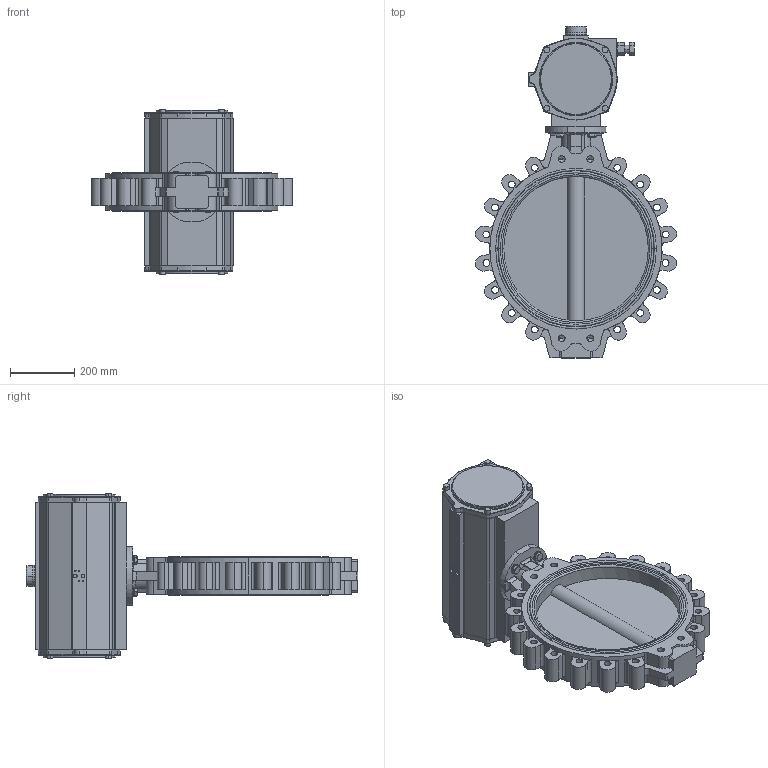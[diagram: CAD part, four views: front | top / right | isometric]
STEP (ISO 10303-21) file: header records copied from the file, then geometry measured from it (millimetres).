
FILE_DESCRIPTION (( 'STEP AP214' ), '1' );
FILE_NAME ('67720.step', '2020-10-26T07:28:24', ( '' ), ( '' ), 'SwSTEP 2.0', 'SolidWorks 2019', '' );
FILE_SCHEMA (( 'AUTOMOTIVE_DESIGN' ));
Length unit declared in the file: millimetre
Products named in the file (6): 67720; DA2100-V46_01; U-Scheibe DIN 125 A_M16; TL20-0450_M01; 6kt-Schr DIN 933_M16x45; Achtkantreduktion 46-36 mm
Assembly tree (11 placements, depth 2):
  67720
    TL20-0450_M01
    DA2100-V46_01
    6kt-Schr DIN 933_M16x45  x4
    U-Scheibe DIN 125 A_M16  x4
    Achtkantreduktion 46-36 mm
Bounding box: 625.8 x 1033 x 516 mm (x, y, z)
Volume: 47484017.6 mm3; surface area: 1949384.7 mm2
Topology: 12 solids, 12 shells, 852 faces, 2143 edges, 1374 vertices
Faces by surface type: plane 381, cylinder 373, cone 53, torus 45
Entity records: 26452 total; most frequent: CARTESIAN_POINT 4758, DIRECTION 4235, ORIENTED_EDGE 3846, EDGE_CURVE 1923, AXIS2_PLACEMENT_3D 1605, VERTEX_POINT 1254, LINE 1025, VECTOR 1025
